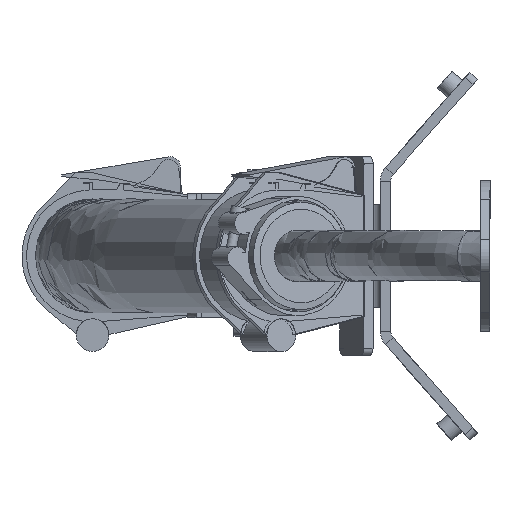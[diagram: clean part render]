
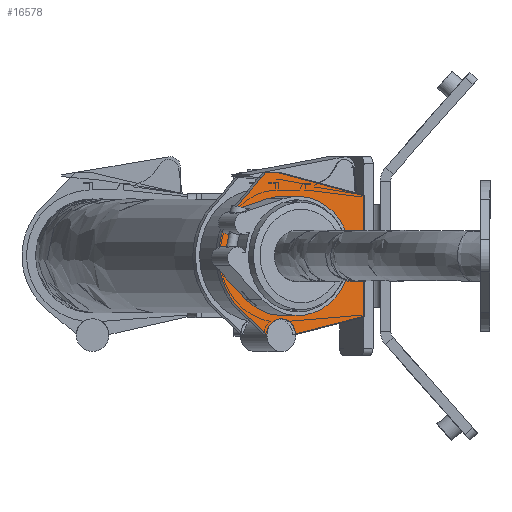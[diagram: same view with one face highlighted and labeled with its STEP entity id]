
A CAD part, left-side view. The second image highlights one B-rep face of the part: STEP entity #16578.
In plain terms, the highlighted planar face has unit normal (-0.883, -0.469, 0).
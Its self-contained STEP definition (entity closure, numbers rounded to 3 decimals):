
#115 = DIRECTION ( 'NONE',  ( 0., 0.001, -1. ) ) ;
#231 = VERTEX_POINT ( 'NONE', #16760 ) ;
#604 = CARTESIAN_POINT ( 'NONE',  ( 1315.531, 235.933, 2553.795 ) ) ;
#628 = DIRECTION ( 'NONE',  ( -0.469, 0.883, 0.001 ) ) ;
#1325 = AXIS2_PLACEMENT_3D ( 'NONE', #8428, #6119, #16076 ) ;
#2339 = EDGE_CURVE ( 'NONE', #17692, #23042, #3695, .T. ) ;
#2777 = ORIENTED_EDGE ( 'NONE', *, *, #13587, .F. ) ;
#3114 = DIRECTION ( 'NONE',  ( -0.883, -0.469, 0. ) ) ;
#3306 = EDGE_CURVE ( 'NONE', #15654, #231, #10026, .T. ) ;
#3510 = CARTESIAN_POINT ( 'NONE',  ( 1324.77, 218.606, 2479.642 ) ) ;
#3695 = LINE ( 'NONE', #21900, #7203 ) ;
#3811 = CIRCLE ( 'NONE', #1325, 41. ) ;
#4217 = VERTEX_POINT ( 'NONE', #16854 ) ;
#4361 = DIRECTION ( 'NONE',  ( -0.33, 0.621, -0.711 ) ) ;
#4614 = AXIS2_PLACEMENT_3D ( 'NONE', #14068, #15998, #115 ) ;
#4696 = ORIENTED_EDGE ( 'NONE', *, *, #13651, .T. ) ;
#4734 = EDGE_LOOP ( 'NONE', ( #2777 ) ) ;
#5022 = DIRECTION ( 'NONE',  ( -0.883, -0.469, 0. ) ) ;
#5188 = LINE ( 'NONE', #17075, #11436 ) ;
#5923 = FACE_BOUND ( 'NONE', #4734, .T. ) ;
#6119 = DIRECTION ( 'NONE',  ( -0.883, -0.469, 0. ) ) ;
#6914 = AXIS2_PLACEMENT_3D ( 'NONE', #16906, #5022, #14967 ) ;
#6943 = ORIENTED_EDGE ( 'NONE', *, *, #3306, .T. ) ;
#7203 = VECTOR ( 'NONE', #11688, 1000. ) ;
#7742 = CARTESIAN_POINT ( 'NONE',  ( 1329.218, 210.177, 2573.15 ) ) ;
#8059 = VERTEX_POINT ( 'NONE', #3510 ) ;
#8428 = CARTESIAN_POINT ( 'NONE',  ( 1329.218, 210.21, 2524.951 ) ) ;
#8612 = CARTESIAN_POINT ( 'NONE',  ( 1324.523, 219.007, 2573.156 ) ) ;
#10026 = LINE ( 'NONE', #10270, #17177 ) ;
#10270 = CARTESIAN_POINT ( 'NONE',  ( 1355.039, 161.671, 2489.618 ) ) ;
#10381 = CARTESIAN_POINT ( 'NONE',  ( 1316.98, 233.247, 2493.32 ) ) ;
#10617 = CARTESIAN_POINT ( 'NONE',  ( 1333.676, 201.857, 2479.255 ) ) ;
#11284 = VERTEX_POINT ( 'NONE', #19186 ) ;
#11436 = VECTOR ( 'NONE', #25081, 1000. ) ;
#11544 = EDGE_CURVE ( 'NONE', #12738, #8059, #5188, .T. ) ;
#11688 = DIRECTION ( 'NONE',  ( -0.457, 0.859, 0.229 ) ) ;
#12696 = CIRCLE ( 'NONE', #6914, 33. ) ;
#12738 = VERTEX_POINT ( 'NONE', #10381 ) ;
#12951 = VERTEX_POINT ( 'NONE', #19056 ) ;
#13454 = DIRECTION ( 'NONE',  ( 0., 0.001, -1. ) ) ;
#13587 = EDGE_CURVE ( 'NONE', #11284, #11284, #12696, .T. ) ;
#13651 = EDGE_CURVE ( 'NONE', #23042, #4217, #22209, .T. ) ;
#13862 = ORIENTED_EDGE ( 'NONE', *, *, #17535, .T. ) ;
#14068 = CARTESIAN_POINT ( 'NONE',  ( 1329.218, 210.21, 2524.951 ) ) ;
#14512 = CARTESIAN_POINT ( 'NONE',  ( 1355.039, 161.624, 2560.218 ) ) ;
#14924 = ORIENTED_EDGE ( 'NONE', *, *, #22465, .T. ) ;
#14967 = DIRECTION ( 'NONE',  ( 0., -0.001, 1. ) ) ;
#15654 = VERTEX_POINT ( 'NONE', #10617 ) ;
#15998 = DIRECTION ( 'NONE',  ( 0.883, 0.469, 0. ) ) ;
#16076 = DIRECTION ( 'NONE',  ( 0., 0.001, -1. ) ) ;
#16288 = EDGE_CURVE ( 'NONE', #15654, #8059, #20264, .T. ) ;
#16407 = ORIENTED_EDGE ( 'NONE', *, *, #16288, .F. ) ;
#16430 = VECTOR ( 'NONE', #628, 1000. ) ;
#16578 = ADVANCED_FACE ( 'NONE', ( #5923, #21942 ), #20010, .F. ) ;
#16740 = ORIENTED_EDGE ( 'NONE', *, *, #11544, .T. ) ;
#16760 = CARTESIAN_POINT ( 'NONE',  ( 1355.039, 161.671, 2489.618 ) ) ;
#16854 = CARTESIAN_POINT ( 'NONE',  ( 1324.523, 219.007, 2573.156 ) ) ;
#16906 = CARTESIAN_POINT ( 'NONE',  ( 1329.218, 210.21, 2524.951 ) ) ;
#17075 = CARTESIAN_POINT ( 'NONE',  ( 1326.871, 214.657, 2475.953 ) ) ;
#17177 = VECTOR ( 'NONE', #18177, 1000. ) ;
#17535 = EDGE_CURVE ( 'NONE', #231, #17692, #23573, .T. ) ;
#17692 = VERTEX_POINT ( 'NONE', #14512 ) ;
#18177 = DIRECTION ( 'NONE',  ( 0.458, -0.861, 0.222 ) ) ;
#18248 = ORIENTED_EDGE ( 'NONE', *, *, #2339, .T. ) ;
#18313 = LINE ( 'NONE', #604, #21075 ) ;
#19056 = CARTESIAN_POINT ( 'NONE',  ( 1315.531, 235.933, 2553.795 ) ) ;
#19186 = CARTESIAN_POINT ( 'NONE',  ( 1329.218, 210.188, 2557.951 ) ) ;
#19431 = AXIS2_PLACEMENT_3D ( 'NONE', #24686, #3114, #13454 ) ;
#20010 = PLANE ( 'NONE',  #4614 ) ;
#20160 = ORIENTED_EDGE ( 'NONE', *, *, #24226, .T. ) ;
#20264 = CIRCLE ( 'NONE', #19431, 9.5 ) ;
#20319 = VECTOR ( 'NONE', #21516, 1000. ) ;
#21075 = VECTOR ( 'NONE', #4361, 1000. ) ;
#21422 = EDGE_LOOP ( 'NONE', ( #16407, #6943, #13862, #18248, #4696, #14924, #20160, #16740 ) ) ;
#21516 = DIRECTION ( 'NONE',  ( 0., -0.001, 1. ) ) ;
#21900 = CARTESIAN_POINT ( 'NONE',  ( 1329.218, 210.177, 2573.15 ) ) ;
#21942 = FACE_OUTER_BOUND ( 'NONE', #21422, .T. ) ;
#22209 = LINE ( 'NONE', #8612, #16430 ) ;
#22465 = EDGE_CURVE ( 'NONE', #4217, #12951, #18313, .T. ) ;
#23042 = VERTEX_POINT ( 'NONE', #7742 ) ;
#23573 = LINE ( 'NONE', #23692, #20319 ) ;
#23692 = CARTESIAN_POINT ( 'NONE',  ( 1355.039, 161.624, 2560.218 ) ) ;
#24226 = EDGE_CURVE ( 'NONE', #12951, #12738, #3811, .T. ) ;
#24686 = CARTESIAN_POINT ( 'NONE',  ( 1329.218, 210.241, 2478.951 ) ) ;
#25081 = DIRECTION ( 'NONE',  ( 0.362, -0.681, -0.636 ) ) ;
